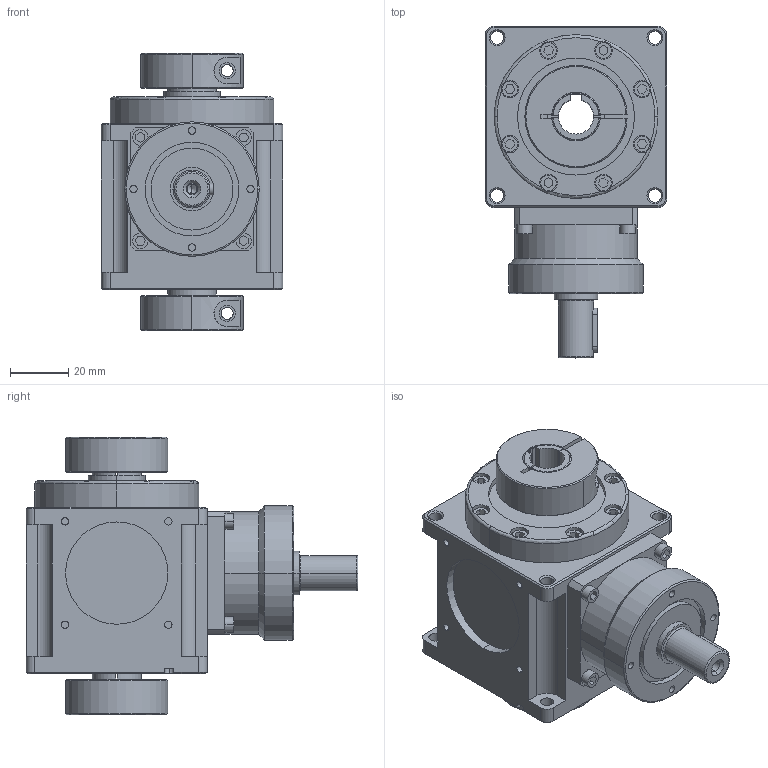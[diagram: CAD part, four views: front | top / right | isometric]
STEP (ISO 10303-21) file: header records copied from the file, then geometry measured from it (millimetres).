
FILE_DESCRIPTION (( 'STEP AP214' ), '1' );
FILE_NAME ('CCT062A-002-2C-K.STEP', '2025-05-19T05:54:12', ( '微软用户' ), ( '微软中国' ), 'SwSTEP 2.0', 'SolidWorks 2024', '' );
FILE_SCHEMA (( 'AUTOMOTIVE_DESIGN' ));
Length unit declared in the file: millimetre
Products named in the file (3): CCT062A-002-2C-K主体; CCT062A-002-2C-K; 标准型开口式固定环[FP-16-12-C]_FP-16-12-C
Assembly tree (3 placements, depth 2):
  CCT062A-002-2C-K
    标准型开口式固定环[FP-16-12-C]_FP-16-12-C  x2
    CCT062A-002-2C-K主体
Bounding box: 62 x 113.5 x 95 mm (x, y, z)
Volume: 270526.3 mm3; surface area: 47123.3 mm2
Topology: 3 solids, 3 shells, 462 faces, 1129 edges, 727 vertices
Faces by surface type: plane 225, cylinder 171, cone 52, torus 14
Entity records: 13035 total; most frequent: CARTESIAN_POINT 2491, DIRECTION 2290, ORIENTED_EDGE 2090, EDGE_CURVE 1045, AXIS2_PLACEMENT_3D 848, VERTEX_POINT 674, LINE 594, VECTOR 594
